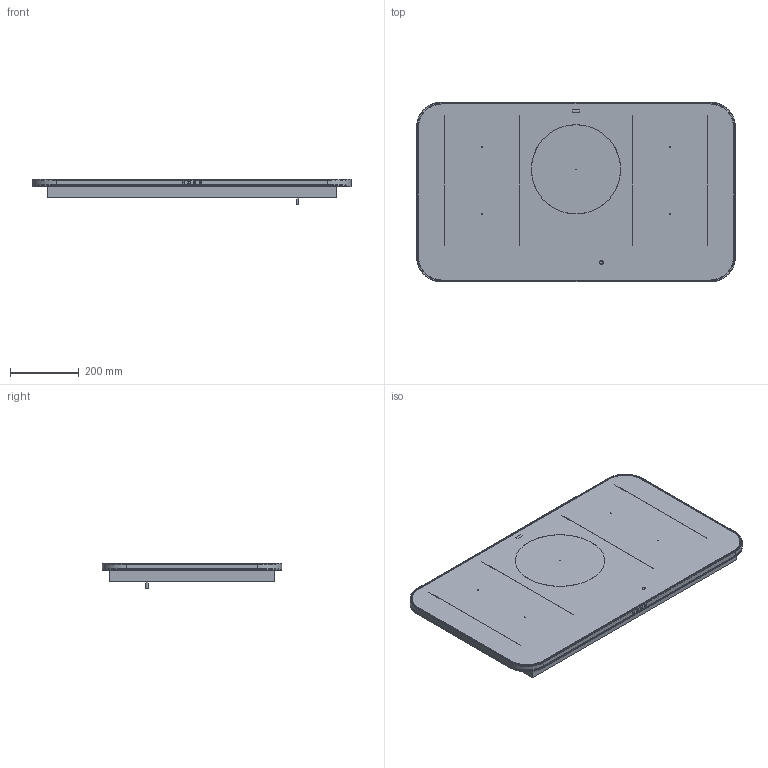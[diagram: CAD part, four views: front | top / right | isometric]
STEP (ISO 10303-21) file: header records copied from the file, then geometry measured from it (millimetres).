
FILE_DESCRIPTION(/* description */ (''),/* implementation_level */ '2;1');
FILE_NAME(/* name */ 'SISL7955X.stp',/* time_stamp */ '2026-07-13T17:20:15+02:00',/* author */ (''),/* organization */ (''),/* preprocessor_version */ 'ST-DEVELOPER v20',/* originating_system */ 'SIEMENS PLM Software NX2412.4001',/* authorisation */ '');
FILE_SCHEMA (('AUTOMOTIVE_DESIGN { 1 0 10303 214 3 1 1 1 }'));
Length unit declared in the file: millimetre
Products named in the file (1): SISL7955X
Bounding box: 927 x 522.07 x 74.3 mm (x, y, z)
Volume: 22499031.4 mm3; surface area: 3175819.3 mm2
Topology: 24 solids, 24 shells, 589 faces, 1409 edges, 870 vertices
Faces by surface type: cylinder 248, plane 223, torus 96, cone 12, extrusion 10
Full cylindrical faces by diameter (mm): 1.5 x5, 3.4 x12, 6 x1, 9.2 x1, 10 x1, 259.4 x1, 260 x1
Entity records: 19116 total; most frequent: CARTESIAN_POINT 3799, DIRECTION 3072, ORIENTED_EDGE 2798, EDGE_CURVE 1399, AXIS2_PLACEMENT_3D 1168, VERTEX_POINT 870, VECTOR 736, LINE 726
